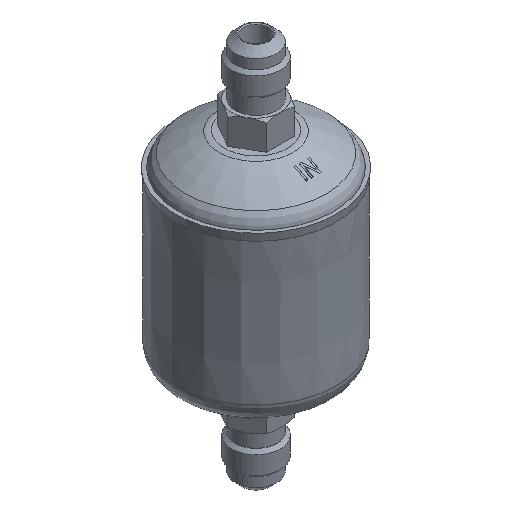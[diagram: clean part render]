
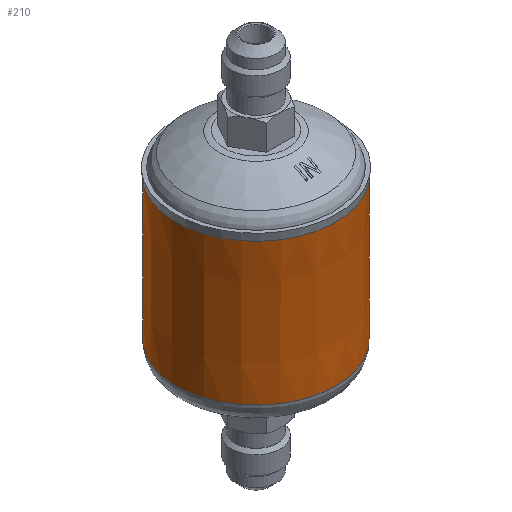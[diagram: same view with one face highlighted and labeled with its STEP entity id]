
A CAD part, isometric view. The second image highlights one B-rep face of the part: STEP entity #210.
In plain terms, the highlighted conical face has half-angle 0.058 degrees and reference radius 26.25 mm.
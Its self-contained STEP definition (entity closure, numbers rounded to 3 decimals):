
#163=CONICAL_SURFACE('',#1456,26.25,0.058);
#210=ADVANCED_FACE('',(#360,#522),#163,.T.);
#360=FACE_BOUND('',#605,.T.);
#522=FACE_OUTER_BOUND('',#606,.T.);
#605=EDGE_LOOP('',(#781));
#606=EDGE_LOOP('',(#782));
#781=ORIENTED_EDGE('',*,*,#1227,.T.);
#782=ORIENTED_EDGE('',*,*,#1228,.T.);
#1103=VERTEX_POINT('',#2064);
#1104=VERTEX_POINT('',#2066);
#1227=EDGE_CURVE('',#1103,#1103,#1377,.T.);
#1228=EDGE_CURVE('',#1104,#1104,#1378,.T.);
#1377=CIRCLE('',#1454,26.253);
#1378=CIRCLE('',#1455,26.3);
#1454=AXIS2_PLACEMENT_3D('',#2063,#1648,#1649);
#1455=AXIS2_PLACEMENT_3D('',#2065,#1650,#1651);
#1456=AXIS2_PLACEMENT_3D('',#2067,#1652,#1653);
#1648=DIRECTION('',(0.,0.,1.));
#1649=DIRECTION('',(-0.924,0.383,0.));
#1650=DIRECTION('',(0.,0.,-1.));
#1651=DIRECTION('',(-0.924,0.383,0.));
#1652=DIRECTION('',(0.,0.,1.));
#1653=DIRECTION('',(0.924,-0.383,0.));
#2063=CARTESIAN_POINT('',(0.427,0.,-27.289));
#2064=CARTESIAN_POINT('',(-23.824,10.056,-27.289));
#2065=CARTESIAN_POINT('',(0.427,0.,19.222));
#2066=CARTESIAN_POINT('',(-23.868,10.074,19.222));
#2067=CARTESIAN_POINT('',(0.427,0.,-30.278));
